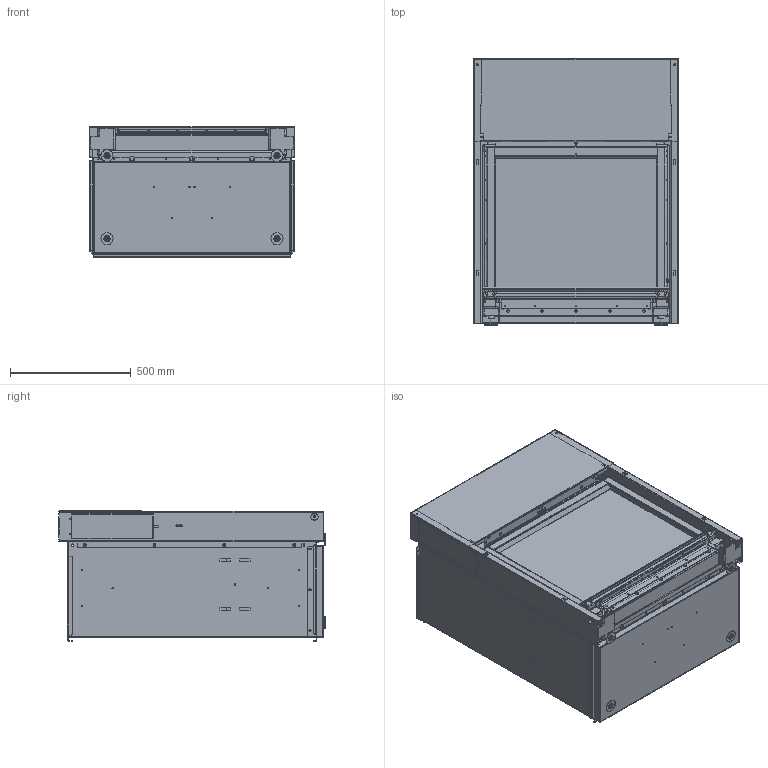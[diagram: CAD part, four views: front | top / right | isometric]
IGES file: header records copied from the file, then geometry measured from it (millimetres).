
Start section:  PTC IGES file: 2185sf.igs
Global section: file name: 2185sf.igs; native system: Creo Parametric by Parametric Technology Corporation; preprocessor: 2012230; author: edi; organization: Unknown; date: 20130424.163121; units: millimetre
Bounding box: 851 x 1106.6 x 540.3 mm (x, y, z)
Surface area: 13511651.4 mm2 (no closed solid volume)
Topology: 0 solids, 57 shells, 3220 faces, 8495 edges, 5369 vertices
Faces by surface type: bspline 2201, revolution 1019
